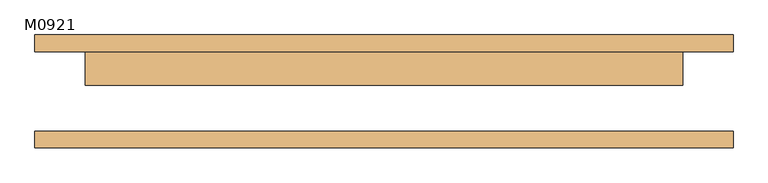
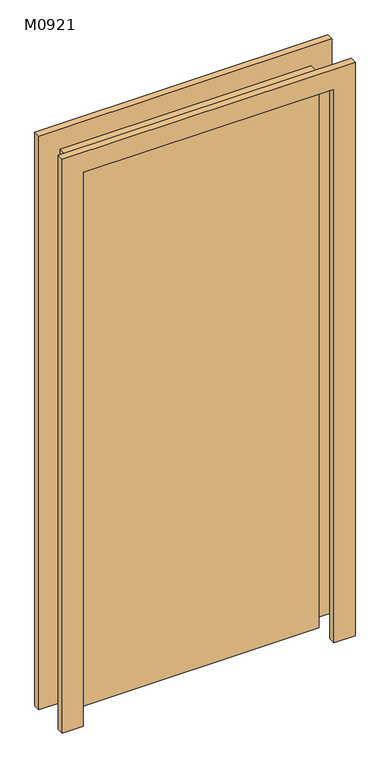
"""IFC4 building model written with IfcOpenShell, lengths in millimetres: door geometry, 单扇 - 与墙齐 : M0921."""

from ifc_helpers import new_model, si_unit, frame, origin, origin_with_axes, place, context, project, spatial, polyline, outline, extrude, source, transform, mapped, element, save


def m0921_9b42acbb(model_context):
    return source(origin(), model_context, "Body", "SweptSolid", [
        extrude(outline(polyline([(2176.0, -526.0), (0.0, -526.0), (0.0, -450.0), (2100.0, -450.0), (2100.0, 450.0), (0.0, 450.0), (0.0, 526.0), (2176.0, 526.0), (2176.0, -526.0)])), frame((0.0, 60.0, 0.0), z_axis=(0.0, 1.0, 0.0), x_axis=(0.0, 0.0, 1.0)), (0.0, 0.0, 1.0), 25.0),
        extrude(outline(polyline([(2176.0, 526.0), (2176.0, -526.0), (0.0, -526.0), (0.0, -450.0), (2100.0, -450.0), (2100.0, 450.0), (0.0, 450.0), (0.0, 526.0), (2176.0, 526.0)])), frame((0.0, -85.0, 0.0), z_axis=(0.0, 1.0, 0.0), x_axis=(0.0, 0.0, 1.0)), (0.0, 0.0, 1.0), 25.0),
        extrude(outline(polyline([(450.0, 9.0), (-450.0, 9.0), (-450.0, 60.0), (450.0, 60.0), (450.0, 9.0)])), origin_with_axes(), (0.0, 0.0, 1.0), 2100.0),
    ])


if __name__ == "__main__":
    model = new_model("IFC4")
    model_context = context("Model", 3, world=origin())
    ifc_project = project(units=[si_unit("LENGTHUNIT", "METRE", prefix="MILLI")], contexts=[model_context])
    site = spatial("IfcSite", under=ifc_project)
    building = spatial("IfcBuilding", under=site)
    placement = place(None, origin())
    m0921_shape = m0921_9b42acbb(model_context)
    element("IfcDoor", 1, ObjectType="单扇 - 与墙齐 : M0921", at=placement, inside=building, context=model_context, shape_type="MappedRepresentation", body=[
        mapped(m0921_shape, transform((0.0, 0.0, 0.0), x_axis=(1.0, 0.0, 0.0), y_axis=(0.0, 1.0, 0.0), z_axis=(0.0, 0.0, 1.0))),
    ])
    save(model, "model.ifc")
